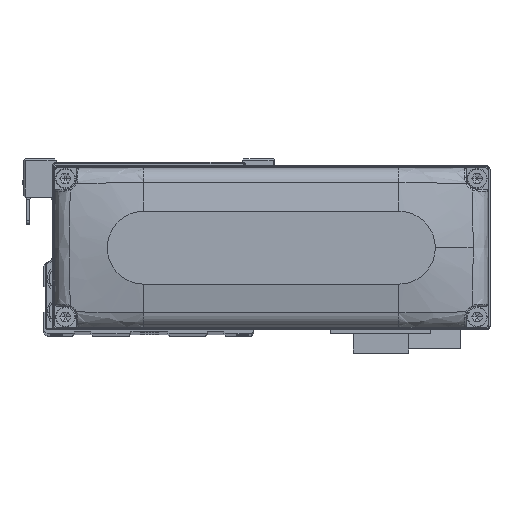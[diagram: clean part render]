
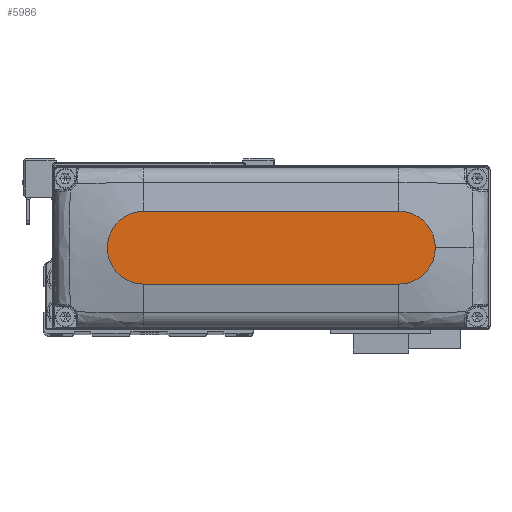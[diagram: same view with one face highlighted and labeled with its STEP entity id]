
A CAD part, top view. The second image highlights one B-rep face of the part: STEP entity #5986.
In plain terms, the highlighted planar face has unit normal (0, 0, 1).
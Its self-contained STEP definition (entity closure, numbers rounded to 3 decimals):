
#477 = PLANE ( 'NONE',  #23666 ) ;
#934 = CARTESIAN_POINT ( 'NONE',  ( -35., -10., 28. ) ) ;
#1935 = VERTEX_POINT ( 'NONE', #15403 ) ;
#2429 = LINE ( 'NONE', #14055, #5181 ) ;
#2599 = CIRCLE ( 'NONE', #7464, 10. ) ;
#3214 = CIRCLE ( 'NONE', #24492, 10. ) ;
#3882 = AXIS2_PLACEMENT_3D ( 'NONE', #30286, #4178, #15810 ) ;
#4178 = DIRECTION ( 'NONE',  ( 0., 0., 1. ) ) ;
#5181 = VECTOR ( 'NONE', #25669, 1000. ) ;
#5445 = ORIENTED_EDGE ( 'NONE', *, *, #24619, .T. ) ;
#5986 = ADVANCED_FACE ( 'NONE', ( #26582 ), #477, .T. ) ;
#6834 = LINE ( 'NONE', #18472, #18402 ) ;
#7244 = ORIENTED_EDGE ( 'NONE', *, *, #29651, .T. ) ;
#7464 = AXIS2_PLACEMENT_3D ( 'NONE', #9318, #20947, #32576 ) ;
#7645 = EDGE_CURVE ( 'NONE', #7927, #1935, #2599, .T. ) ;
#7713 = VERTEX_POINT ( 'NONE', #33146 ) ;
#7927 = VERTEX_POINT ( 'NONE', #17088 ) ;
#9318 = CARTESIAN_POINT ( 'NONE',  ( 35., 0., 28. ) ) ;
#10902 = DIRECTION ( 'NONE',  ( 0., 0., 1. ) ) ;
#12095 = CARTESIAN_POINT ( 'NONE',  ( 0., 0., 28. ) ) ;
#14055 = CARTESIAN_POINT ( 'NONE',  ( -35., 10., 28. ) ) ;
#14913 = EDGE_CURVE ( 'NONE', #29633, #7713, #2429, .T. ) ;
#15305 = ORIENTED_EDGE ( 'NONE', *, *, #21968, .T. ) ;
#15403 = CARTESIAN_POINT ( 'NONE',  ( 45., 0., 28. ) ) ;
#15810 = DIRECTION ( 'NONE',  ( 1., 0., 0. ) ) ;
#16656 = CARTESIAN_POINT ( 'NONE',  ( 35., 10., 28. ) ) ;
#17088 = CARTESIAN_POINT ( 'NONE',  ( 35., -10., 28. ) ) ;
#18109 = VERTEX_POINT ( 'NONE', #934 ) ;
#18402 = VECTOR ( 'NONE', #30087, 1000. ) ;
#18472 = CARTESIAN_POINT ( 'NONE',  ( -35., -10., 28. ) ) ;
#18912 = EDGE_LOOP ( 'NONE', ( #20070, #7244, #5445, #36360, #15305 ) ) ;
#20070 = ORIENTED_EDGE ( 'NONE', *, *, #14913, .T. ) ;
#20310 = CIRCLE ( 'NONE', #3882, 10. ) ;
#20947 = DIRECTION ( 'NONE',  ( 0., 0., 1. ) ) ;
#21968 = EDGE_CURVE ( 'NONE', #1935, #29633, #20310, .T. ) ;
#22525 = DIRECTION ( 'NONE',  ( 1., 0., 0. ) ) ;
#23666 = AXIS2_PLACEMENT_3D ( 'NONE', #12095, #23703, #35346 ) ;
#23703 = DIRECTION ( 'NONE',  ( 0., 0., 1. ) ) ;
#24492 = AXIS2_PLACEMENT_3D ( 'NONE', #37033, #10902, #22525 ) ;
#24619 = EDGE_CURVE ( 'NONE', #18109, #7927, #6834, .T. ) ;
#25669 = DIRECTION ( 'NONE',  ( -1., 0., 0. ) ) ;
#26582 = FACE_OUTER_BOUND ( 'NONE', #18912, .T. ) ;
#29633 = VERTEX_POINT ( 'NONE', #16656 ) ;
#29651 = EDGE_CURVE ( 'NONE', #7713, #18109, #3214, .T. ) ;
#30087 = DIRECTION ( 'NONE',  ( 1., 0., 0. ) ) ;
#30286 = CARTESIAN_POINT ( 'NONE',  ( 35., 0., 28. ) ) ;
#32576 = DIRECTION ( 'NONE',  ( 1., 0., 0. ) ) ;
#33146 = CARTESIAN_POINT ( 'NONE',  ( -35., 10., 28. ) ) ;
#35346 = DIRECTION ( 'NONE',  ( 1., 0., 0. ) ) ;
#36360 = ORIENTED_EDGE ( 'NONE', *, *, #7645, .T. ) ;
#37033 = CARTESIAN_POINT ( 'NONE',  ( -35., 0., 28. ) ) ;
